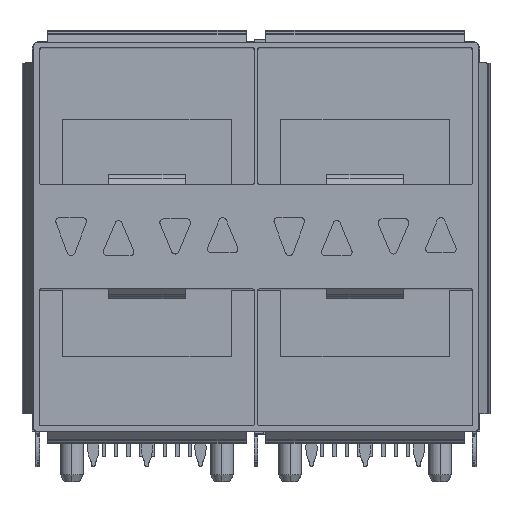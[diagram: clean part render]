
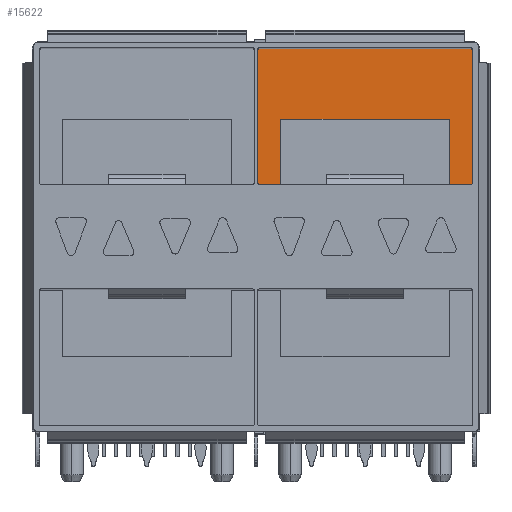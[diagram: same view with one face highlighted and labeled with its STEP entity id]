
A CAD part, top view. The second image highlights one B-rep face of the part: STEP entity #15622.
In plain terms, the highlighted planar face has unit normal (0, 0, 1).
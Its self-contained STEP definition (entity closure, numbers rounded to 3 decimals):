
#700 = CARTESIAN_POINT ( 'NONE',  ( 14.125, 16.1, -48.55 ) ) ;
#1525 = LINE ( 'NONE', #18199, #49493 ) ;
#1587 = EDGE_CURVE ( 'NONE', #45231, #43125, #32718, .T. ) ;
#1869 = EDGE_CURVE ( 'NONE', #43125, #34667, #36343, .T. ) ;
#1892 = VECTOR ( 'NONE', #15590, 1000. ) ;
#2068 = DIRECTION ( 'NONE',  ( 0., -1., 0. ) ) ;
#2166 = VERTEX_POINT ( 'NONE', #34145 ) ;
#2250 = CARTESIAN_POINT ( 'NONE',  ( 14.125, 16.1, -48.55 ) ) ;
#2492 = AXIS2_PLACEMENT_3D ( 'NONE', #21527, #53806, #12254 ) ;
#2662 = VERTEX_POINT ( 'NONE', #9998 ) ;
#4637 = DIRECTION ( 'NONE',  ( 1., 0., 0. ) ) ;
#4784 = ORIENTED_EDGE ( 'NONE', *, *, #46362, .T. ) ;
#5090 = CARTESIAN_POINT ( 'NONE',  ( 12.625, 20.35, -48.55 ) ) ;
#5498 = CARTESIAN_POINT ( 'NONE',  ( 1.625, 20.35, -48.55 ) ) ;
#5719 = CARTESIAN_POINT ( 'NONE',  ( 0.225, 16., -48.55 ) ) ;
#5798 = LINE ( 'NONE', #50683, #51686 ) ;
#6354 = EDGE_CURVE ( 'NONE', #34667, #20182, #5798, .T. ) ;
#6833 = VECTOR ( 'NONE', #13281, 1000. ) ;
#7367 = DIRECTION ( 'NONE',  ( 1., 0., 0. ) ) ;
#8263 = LINE ( 'NONE', #20030, #18544 ) ;
#9873 = CARTESIAN_POINT ( 'NONE',  ( 12.625, 20.35, -48.55 ) ) ;
#9947 = EDGE_LOOP ( 'NONE', ( #50256, #51175, #23890, #4784, #47372, #32922, #41623, #12372, #30963, #46528, #41887, #48690 ) ) ;
#9998 = CARTESIAN_POINT ( 'NONE',  ( 0.125, 24.85, -48.55 ) ) ;
#10722 = CARTESIAN_POINT ( 'NONE',  ( 0.225, 16.1, -48.55 ) ) ;
#10921 = CARTESIAN_POINT ( 'NONE',  ( 1.625, 16., -48.55 ) ) ;
#12254 = DIRECTION ( 'NONE',  ( -1., 0., 0. ) ) ;
#12372 = ORIENTED_EDGE ( 'NONE', *, *, #13693, .T. ) ;
#12695 = VERTEX_POINT ( 'NONE', #9873 ) ;
#12901 = EDGE_CURVE ( 'NONE', #2166, #45747, #36650, .T. ) ;
#12973 = EDGE_CURVE ( 'NONE', #13784, #16074, #53418, .T. ) ;
#13180 = DIRECTION ( 'NONE',  ( -1., 0., 0. ) ) ;
#13281 = DIRECTION ( 'NONE',  ( 0., -1., 0. ) ) ;
#13693 = EDGE_CURVE ( 'NONE', #20182, #12695, #8263, .T. ) ;
#13784 = VERTEX_POINT ( 'NONE', #33974 ) ;
#15526 = FACE_OUTER_BOUND ( 'NONE', #9947, .T. ) ;
#15590 = DIRECTION ( 'NONE',  ( -1., 0., 0. ) ) ;
#15622 = ADVANCED_FACE ( 'NONE', ( #15526 ), #19361, .F. ) ;
#16074 = VERTEX_POINT ( 'NONE', #700 ) ;
#16120 = AXIS2_PLACEMENT_3D ( 'NONE', #10722, #24099, #20009 ) ;
#17917 = CARTESIAN_POINT ( 'NONE',  ( 0.125, 16.1, -48.55 ) ) ;
#18115 = DIRECTION ( 'NONE',  ( 0., 1., 0. ) ) ;
#18199 = CARTESIAN_POINT ( 'NONE',  ( 0.125, 24.85, -48.55 ) ) ;
#18544 = VECTOR ( 'NONE', #20839, 1000. ) ;
#19025 = EDGE_CURVE ( 'NONE', #16074, #40107, #26863, .T. ) ;
#19361 = PLANE ( 'NONE',  #32774 ) ;
#20009 = DIRECTION ( 'NONE',  ( -1., 0., 0. ) ) ;
#20030 = CARTESIAN_POINT ( 'NONE',  ( 1.625, 20.35, -48.55 ) ) ;
#20182 = VERTEX_POINT ( 'NONE', #5498 ) ;
#20839 = DIRECTION ( 'NONE',  ( 1., 0., 0. ) ) ;
#21386 = CARTESIAN_POINT ( 'NONE',  ( 0.225, 24.85, -48.55 ) ) ;
#21527 = CARTESIAN_POINT ( 'NONE',  ( 14.025, 24.85, -48.55 ) ) ;
#22754 = EDGE_CURVE ( 'NONE', #46084, #13784, #46475, .T. ) ;
#23890 = ORIENTED_EDGE ( 'NONE', *, *, #52768, .T. ) ;
#24099 = DIRECTION ( 'NONE',  ( 0., 0., 1. ) ) ;
#24369 = CARTESIAN_POINT ( 'NONE',  ( 14.125, 24.85, -48.55 ) ) ;
#26863 = LINE ( 'NONE', #2250, #27635 ) ;
#27635 = VECTOR ( 'NONE', #18115, 1000. ) ;
#30963 = ORIENTED_EDGE ( 'NONE', *, *, #37483, .T. ) ;
#31615 = VECTOR ( 'NONE', #7367, 1000. ) ;
#31646 = CARTESIAN_POINT ( 'NONE',  ( 12.625, 16., -48.55 ) ) ;
#32222 = DIRECTION ( 'NONE',  ( 0., 0., -1. ) ) ;
#32480 = EDGE_CURVE ( 'NONE', #40107, #2166, #52243, .T. ) ;
#32485 = CARTESIAN_POINT ( 'NONE',  ( -14.375, 25.2, -48.55 ) ) ;
#32718 = CIRCLE ( 'NONE', #16120, 0.1 ) ;
#32774 = AXIS2_PLACEMENT_3D ( 'NONE', #32485, #32222, #48898 ) ;
#32922 = ORIENTED_EDGE ( 'NONE', *, *, #1869, .T. ) ;
#33974 = CARTESIAN_POINT ( 'NONE',  ( 14.025, 16., -48.55 ) ) ;
#34145 = CARTESIAN_POINT ( 'NONE',  ( 14.025, 24.95, -48.55 ) ) ;
#34667 = VERTEX_POINT ( 'NONE', #36373 ) ;
#35969 = AXIS2_PLACEMENT_3D ( 'NONE', #21386, #46820, #13180 ) ;
#36343 = LINE ( 'NONE', #10921, #31615 ) ;
#36373 = CARTESIAN_POINT ( 'NONE',  ( 1.625, 16., -48.55 ) ) ;
#36650 = LINE ( 'NONE', #53040, #1892 ) ;
#37483 = EDGE_CURVE ( 'NONE', #12695, #46084, #42000, .T. ) ;
#38995 = DIRECTION ( 'NONE',  ( -1., 0., 0. ) ) ;
#40107 = VERTEX_POINT ( 'NONE', #24369 ) ;
#41623 = ORIENTED_EDGE ( 'NONE', *, *, #6354, .T. ) ;
#41887 = ORIENTED_EDGE ( 'NONE', *, *, #12973, .T. ) ;
#41894 = VECTOR ( 'NONE', #4637, 1000. ) ;
#42000 = LINE ( 'NONE', #5090, #6833 ) ;
#42093 = CARTESIAN_POINT ( 'NONE',  ( 12.625, 16., -48.55 ) ) ;
#43125 = VERTEX_POINT ( 'NONE', #5719 ) ;
#43639 = CARTESIAN_POINT ( 'NONE',  ( 14.025, 16.1, -48.55 ) ) ;
#45231 = VERTEX_POINT ( 'NONE', #17917 ) ;
#45747 = VERTEX_POINT ( 'NONE', #48936 ) ;
#46084 = VERTEX_POINT ( 'NONE', #31646 ) ;
#46362 = EDGE_CURVE ( 'NONE', #2662, #45231, #1525, .T. ) ;
#46475 = LINE ( 'NONE', #42093, #41894 ) ;
#46528 = ORIENTED_EDGE ( 'NONE', *, *, #22754, .T. ) ;
#46820 = DIRECTION ( 'NONE',  ( 0., 0., 1. ) ) ;
#46837 = DIRECTION ( 'NONE',  ( 0., 1., 0. ) ) ;
#47372 = ORIENTED_EDGE ( 'NONE', *, *, #1587, .T. ) ;
#48189 = AXIS2_PLACEMENT_3D ( 'NONE', #43639, #51301, #38995 ) ;
#48690 = ORIENTED_EDGE ( 'NONE', *, *, #19025, .T. ) ;
#48898 = DIRECTION ( 'NONE',  ( 0., -1., 0. ) ) ;
#48936 = CARTESIAN_POINT ( 'NONE',  ( 0.225, 24.95, -48.55 ) ) ;
#49493 = VECTOR ( 'NONE', #2068, 1000. ) ;
#50256 = ORIENTED_EDGE ( 'NONE', *, *, #32480, .T. ) ;
#50683 = CARTESIAN_POINT ( 'NONE',  ( 1.625, 20.35, -48.55 ) ) ;
#51175 = ORIENTED_EDGE ( 'NONE', *, *, #12901, .T. ) ;
#51301 = DIRECTION ( 'NONE',  ( 0., 0., 1. ) ) ;
#51686 = VECTOR ( 'NONE', #46837, 1000. ) ;
#51694 = CIRCLE ( 'NONE', #35969, 0.1 ) ;
#52243 = CIRCLE ( 'NONE', #2492, 0.1 ) ;
#52768 = EDGE_CURVE ( 'NONE', #45747, #2662, #51694, .T. ) ;
#53040 = CARTESIAN_POINT ( 'NONE',  ( 14.025, 24.95, -48.55 ) ) ;
#53418 = CIRCLE ( 'NONE', #48189, 0.1 ) ;
#53806 = DIRECTION ( 'NONE',  ( 0., 0., 1. ) ) ;
